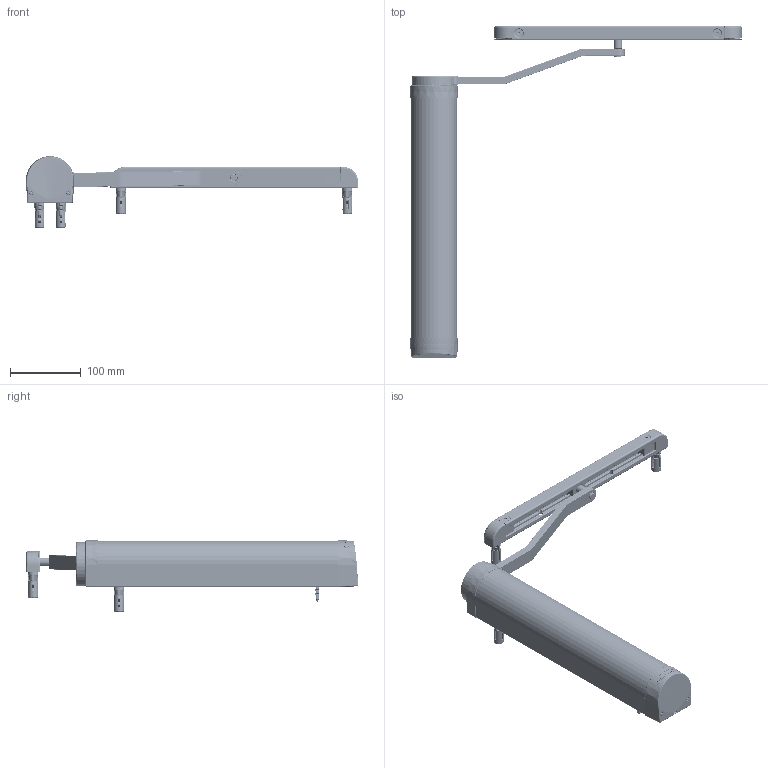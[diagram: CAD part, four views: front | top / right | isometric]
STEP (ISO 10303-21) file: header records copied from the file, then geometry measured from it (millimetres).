
FILE_DESCRIPTION (( 'STEP AP203' ), '1' );
FILE_NAME ('VTC2_1047_963-Right_1.STEP', '2023-09-27T04:39:41', ( '' ), ( '' ), 'SwSTEP 2.0', 'SolidWorks 2021', '' );
FILE_SCHEMA (( 'CONFIG_CONTROL_DESIGN' ));
Length unit declared in the file: millimetre
Products named in the file (49): 1004_309_DIN 912 M4 x 20 --- 20S; 1035_159_Opgespannen; 1001_065_DIN 912 M4 x 30 --- 20S; 1009_467; 1035_204; 1028_358; 1013_222_DIN 7984 - M8 x 40 --- 40S; 1025_022; 1028_589; 1020_811; 1009_469; 1020_562; 1020_679; 1035_376; 1025_023; 1001_083_DIN 7991 - M6 x 12 --- 12S; 0000_032_DIN 912 M8 x 80 --- 28S; 1024_088; 1018_389; 1020_558; 1035_152; 1027_980; 1034_466; 1037_272; 1020_556; 1028_599; 1018_376; VTC2_1047_963-Right_1; 0000_096_Square nut DIN 562 M6 -S; 1031_055; 1010_040_DIN 7991 - M6 x 25 --- 25S; 1018_697
Assembly tree (38 placements, depth 3):
  1035_159_Opgespannen
  1001_065_DIN 912 M4 x 30 --- 20S
  1009_467
  1035_204
  1013_222_DIN 7984 - M8 x 40 --- 40S
Bounding box: 468.83 x 468.39 x 101.24 mm (x, y, z)
Volume: 816981 mm3; surface area: 437826.2 mm2
Topology: 35 solids, 35 shells, 3733 faces, 9884 edges, 6230 vertices
Faces by surface type: plane 1356, cylinder 940, cone 868, bspline 519, torus 50
Full cylindrical faces by diameter (mm): 2.5 x2, 3 x2, 3.3 x7, 3.5 x2, 4 x114, 4.88 x68, 5 x3, 5.2 x2, 6 x37, 6.2 x4, 6.3 x2, 6.7 x10, 6.8 x2, 7 x4, 7.3 x2, 7.5 x2, 8 x110, 8.5 x4, 9 x5, 9.2 x2, 9.8 x1, 10 x1, 11.57 x4, 12 x3, 13 x5, 13.5 x6, 13.8 x4, 14 x4, 20 x1, 21 x1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
Entity records: 82242 total; most frequent: CARTESIAN_POINT 27992, ORIENTED_EDGE 9998, DIRECTION 9618, EDGE_CURVE 4999, AXIS2_PLACEMENT_3D 3672, VERTEX_POINT 3418, EDGE_LOOP 3107, FACE_OUTER_BOUND 2575
